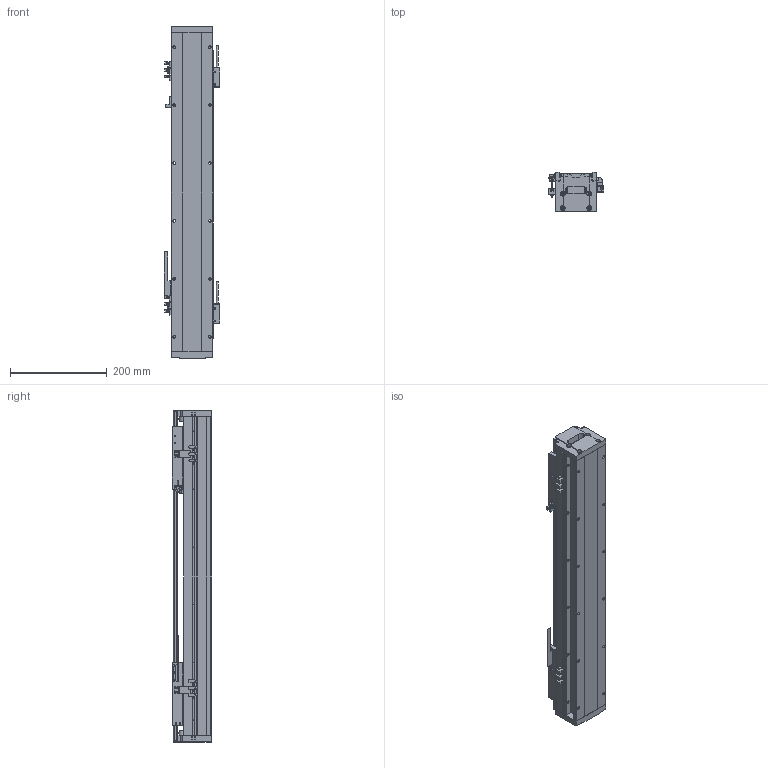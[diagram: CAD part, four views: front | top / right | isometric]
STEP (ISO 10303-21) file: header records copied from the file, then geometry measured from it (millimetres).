
FILE_DESCRIPTION (( 'STEP AP214' ), '1' );
FILE_NAME ('STC086-A-P-0490-2F105-MB-010-0.3.STEP', '2023-05-11T03:10:42', ( '' ), ( '' ), 'SwSTEP 2.0', 'SolidWorks 2018', '' );
FILE_SCHEMA (( 'AUTOMOTIVE_DESIGN' ));
Length unit declared in the file: millimetre
Products named in the file (62): STK080-F105賑怢蚾饜极-1; SF-202NA-W（光电开关）; 賑輸SRS12M; 絳寢SRS12M+xxxxL-G10; 086-SE1-040-S賑怢; STK013-01（磁栅压块）; HC-U-02-Lxxx棠掑喜; STC086-A-P-0490-2F105-MB-010-0.3; LMD-2-R001-V5-L0.3-C0-F00（磁栅编码器）; 086-Lxxxx裔啣; SKT0112-02（线缆固定件）; 086-Lxxxx菁釱; STK0095-001（多动子感应片）; STK0112-01（感应片）(默认); STK0066-001（086端盖）; 蝶菜17x14x10; STK0086-001（086读头固定块）; SE040隅赽; SL-205NA-W（光电开关）; STK080-F105賑怢蚾饜极
Assembly tree (44 placements, depth 3):
  SF-202NA-W（光电开关）
  絳寢SRS12M+xxxxL-G10
  086-SE1-040-S賑怢
  賑輸SRS12M
  STK013-01（磁栅压块）
Bounding box: 115.7 x 81 x 688 mm (x, y, z)
Volume: 2613096.4 mm3; surface area: 805296.3 mm2
Topology: 42 solids, 42 shells, 3215 faces, 8712 edges, 5526 vertices
Faces by surface type: plane 1646, cylinder 1226, cone 289, torus 24, bspline 22, sphere 8
Entity records: 52462 total; most frequent: CARTESIAN_POINT 10747, ORIENTED_EDGE 8434, DIRECTION 8289, EDGE_CURVE 4217, AXIS2_PLACEMENT_3D 2813, VERTEX_POINT 2753, VECTOR 2663, LINE 2663
